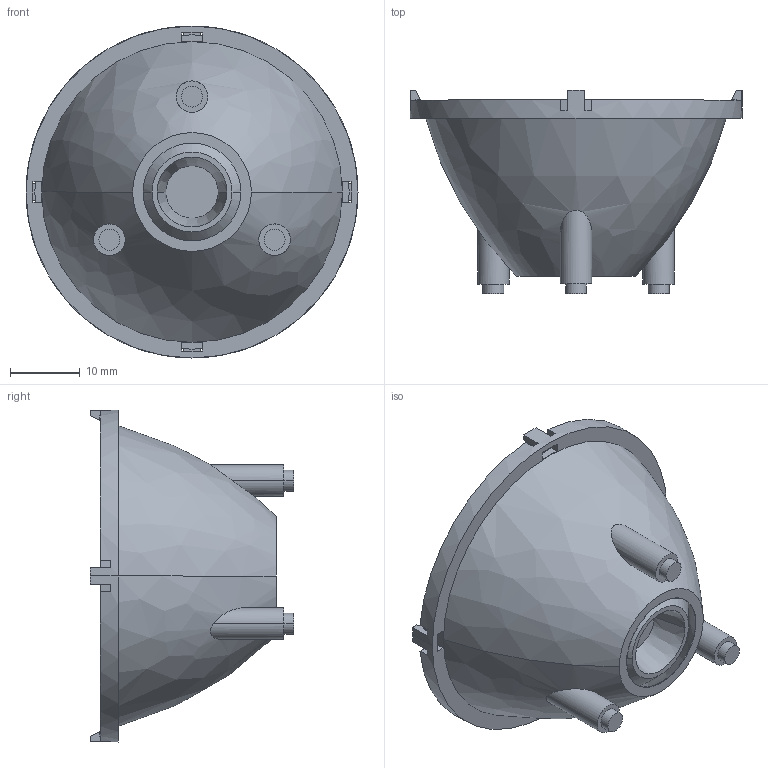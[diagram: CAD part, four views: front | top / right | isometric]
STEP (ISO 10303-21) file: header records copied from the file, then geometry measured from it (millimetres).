
FILE_DESCRIPTION (( 'STEP AP214' ), '1' );
FILE_NAME ('LLXX-XT08-P3_RevA1.STEP', '2012-09-07T01:27:34', ( '' ), ( '' ), 'SwSTEP 2.0', 'SolidWorks 2011', '' );
FILE_SCHEMA (( 'AUTOMOTIVE_DESIGN' ));
Length unit declared in the file: millimetre
Products named in the file (1): LLXX-XT08-P3_RevA1
Bounding box: 47.5 x 29.1 x 47.5 mm (x, y, z)
Volume: 21510.5 mm3; surface area: 11844 mm2
Topology: 2 solids, 2 shells, 103 faces, 268 edges, 178 vertices
Faces by surface type: plane 68, cylinder 26, bspline 6, cone 2, sphere 1
Entity records: 4606 total; most frequent: CARTESIAN_POINT 830, DIRECTION 540, ORIENTED_EDGE 536, EDGE_CURVE 268, AXIS2_PLACEMENT_3D 182, VERTEX_POINT 178, VECTOR 176, LINE 176
